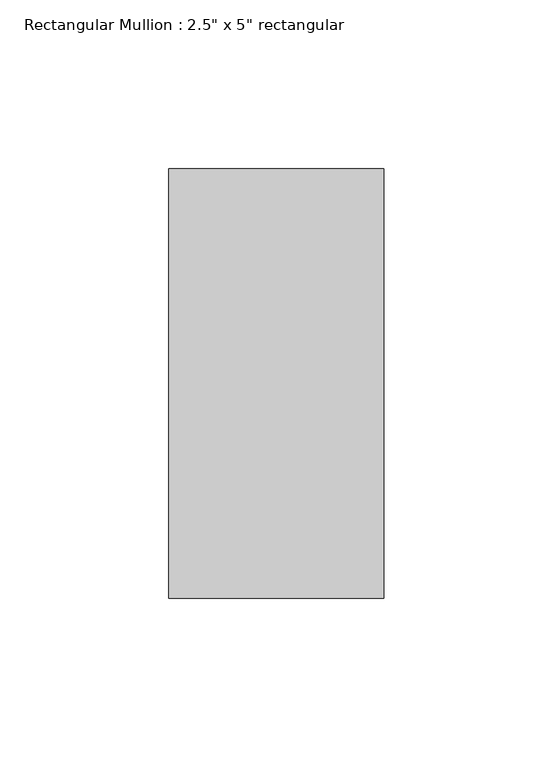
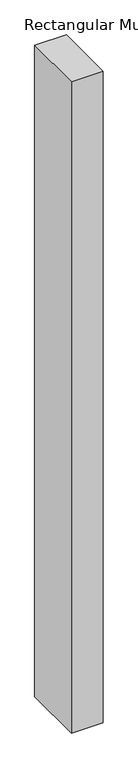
"""IFC4 building model written with IfcOpenShell, lengths in millimetres: member geometry."""

from ifc_helpers import new_model, si_unit, frame, origin, place, context, project, spatial, polyline, outline, extrude, source, transform, mapped, element, save


def member_4dc7c44e(model_context):
    return source(origin(), model_context, "Body", "SweptSolid", [
        extrude(outline(polyline([(31.75, 63.5), (31.75, -63.5), (-31.75, -63.5), (-31.75, 63.5), (31.75, 63.5)])), frame((0.0, 0.0, -1377.95), z_axis=(0.0, 0.0, 1.0), x_axis=(1.0, 0.0, 0.0)), (0.0, 0.0, 1.0), 1377.95),
    ])


if __name__ == "__main__":
    model = new_model("IFC4")
    model_context = context("Model", 3, world=origin())
    ifc_project = project(units=[si_unit("LENGTHUNIT", "METRE", prefix="MILLI")], contexts=[model_context])
    site = spatial("IfcSite", under=ifc_project)
    building = spatial("IfcBuilding", under=site)
    placement = place(None, origin())
    member_shape = member_4dc7c44e(model_context)
    element("IfcMember", 1, ObjectType="Rectangular Mullion : 2.5\" x 5\" rectangular", at=placement, inside=building, context=model_context, shape_type="MappedRepresentation", body=[
        mapped(member_shape, transform((0.0, 0.0, 0.0), x_axis=(1.0, 0.0, 0.0), y_axis=(0.0, 1.0, 0.0), z_axis=(0.0, 0.0, 1.0))),
    ])
    save(model, "model.ifc")
